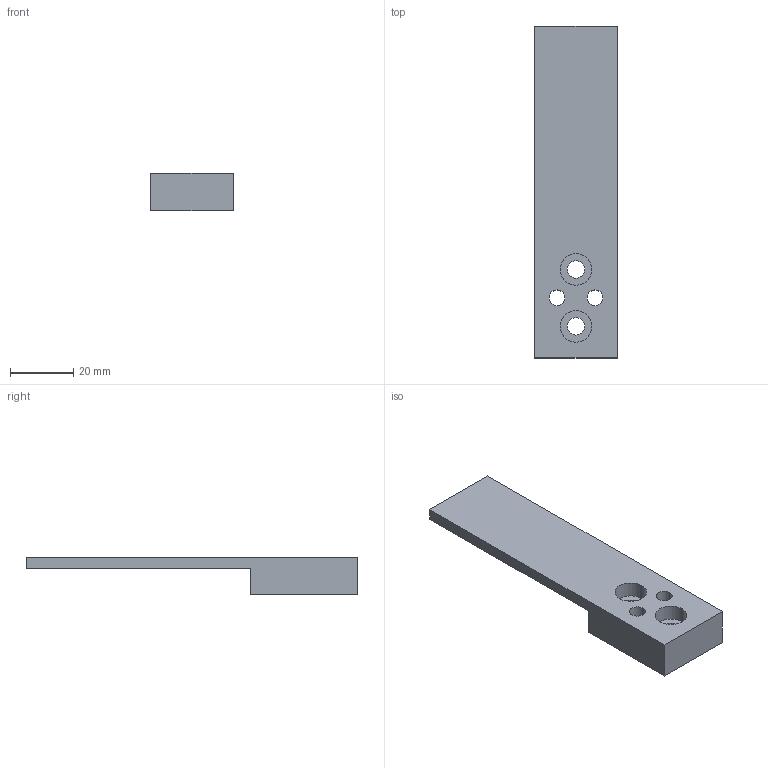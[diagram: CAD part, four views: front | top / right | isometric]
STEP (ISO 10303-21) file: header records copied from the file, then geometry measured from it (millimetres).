
FILE_DESCRIPTION (( 'STEP AP203' ), '1' );
FILE_NAME ('PPE32-P1.step', '2017-02-15T12:25:37', ( '' ), ( '' ), 'SwSTEP 2.0', 'SolidWorks 2012', '' );
FILE_SCHEMA (( 'CONFIG_CONTROL_DESIGN' ));
Length unit declared in the file: millimetre
Products named in the file (1): PPE32-P1
Bounding box: 26 x 105 x 12 mm (x, y, z)
Volume: 15937.5 mm3; surface area: 8192.9 mm2
Topology: 1 solids, 1 shells, 22 faces, 54 edges, 36 vertices
Faces by surface type: cylinder 12, plane 10
Entity records: 755 total; most frequent: DIRECTION 124, CARTESIAN_POINT 113, ORIENTED_EDGE 108, EDGE_CURVE 54, AXIS2_PLACEMENT_3D 47, VERTEX_POINT 36, EDGE_LOOP 32, VECTOR 30
